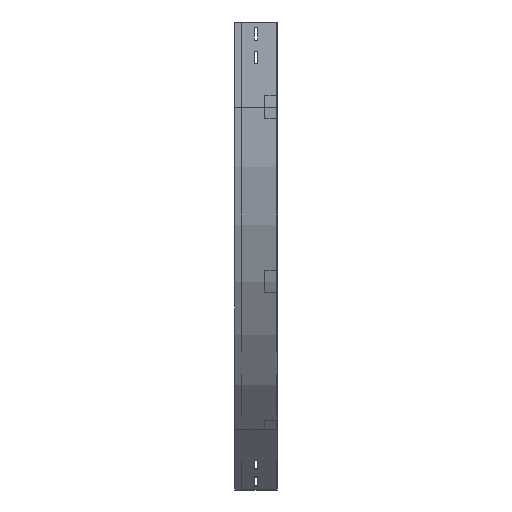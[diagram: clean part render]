
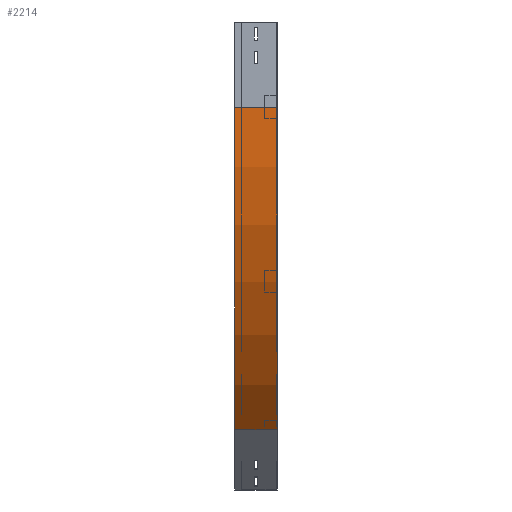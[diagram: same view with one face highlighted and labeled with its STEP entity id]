
A CAD part, left-side view. The second image highlights one B-rep face of the part: STEP entity #2214.
In plain terms, the highlighted cylindrical face has radius 800 mm (diameter 1600 mm), a partial arc.
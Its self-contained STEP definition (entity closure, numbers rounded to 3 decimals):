
#7 = VERTEX_POINT ( 'NONE', #1829 ) ;
#104 = DIRECTION ( 'NONE',  ( 0., -1., 0. ) ) ;
#155 = DIRECTION ( 'NONE',  ( 0., 0., -1. ) ) ;
#211 = CARTESIAN_POINT ( 'NONE',  ( 800., 75., -150. ) ) ;
#356 = CARTESIAN_POINT ( 'NONE',  ( 800., 0., -150. ) ) ;
#468 = ORIENTED_EDGE ( 'NONE', *, *, #1141, .T. ) ;
#485 = VERTEX_POINT ( 'NONE', #1782 ) ;
#693 = DIRECTION ( 'NONE',  ( -1., 0., 0. ) ) ;
#805 = AXIS2_PLACEMENT_3D ( 'NONE', #356, #1488, #693 ) ;
#858 = DIRECTION ( 'NONE',  ( 0., -1., 0. ) ) ;
#867 = VERTEX_POINT ( 'NONE', #3276 ) ;
#876 = EDGE_LOOP ( 'NONE', ( #2942, #2576, #1352, #468 ) ) ;
#1041 = DIRECTION ( 'NONE',  ( -1., 0., 0. ) ) ;
#1047 = AXIS2_PLACEMENT_3D ( 'NONE', #211, #1644, #1041 ) ;
#1141 = EDGE_CURVE ( 'NONE', #867, #7, #1702, .T. ) ;
#1352 = ORIENTED_EDGE ( 'NONE', *, *, #3806, .T. ) ;
#1380 = CYLINDRICAL_SURFACE ( 'NONE', #1603, 800. ) ;
#1476 = EDGE_CURVE ( 'NONE', #2558, #485, #1537, .T. ) ;
#1488 = DIRECTION ( 'NONE',  ( 0., -1., 0. ) ) ;
#1537 = LINE ( 'NONE', #1833, #3797 ) ;
#1603 = AXIS2_PLACEMENT_3D ( 'NONE', #1980, #2844, #155 ) ;
#1644 = DIRECTION ( 'NONE',  ( 0., -1., 0. ) ) ;
#1666 = CARTESIAN_POINT ( 'NONE',  ( 234.315, 0., -715.685 ) ) ;
#1702 = LINE ( 'NONE', #1666, #1778 ) ;
#1778 = VECTOR ( 'NONE', #858, 1000. ) ;
#1782 = CARTESIAN_POINT ( 'NONE',  ( 0., 0., -150. ) ) ;
#1829 = CARTESIAN_POINT ( 'NONE',  ( 234.315, 0., -715.685 ) ) ;
#1833 = CARTESIAN_POINT ( 'NONE',  ( 0., 0., -150. ) ) ;
#1980 = CARTESIAN_POINT ( 'NONE',  ( 800., 0., -150. ) ) ;
#2041 = EDGE_CURVE ( 'NONE', #485, #7, #3151, .T. ) ;
#2214 = ADVANCED_FACE ( 'NONE', ( #2870 ), #1380, .T. ) ;
#2558 = VERTEX_POINT ( 'NONE', #2757 ) ;
#2576 = ORIENTED_EDGE ( 'NONE', *, *, #1476, .F. ) ;
#2757 = CARTESIAN_POINT ( 'NONE',  ( 0., 75., -150. ) ) ;
#2844 = DIRECTION ( 'NONE',  ( 0., -1., 0. ) ) ;
#2870 = FACE_OUTER_BOUND ( 'NONE', #876, .T. ) ;
#2942 = ORIENTED_EDGE ( 'NONE', *, *, #2041, .F. ) ;
#3025 = CIRCLE ( 'NONE', #1047, 800. ) ;
#3151 = CIRCLE ( 'NONE', #805, 800. ) ;
#3276 = CARTESIAN_POINT ( 'NONE',  ( 234.315, 75., -715.685 ) ) ;
#3797 = VECTOR ( 'NONE', #104, 1000. ) ;
#3806 = EDGE_CURVE ( 'NONE', #2558, #867, #3025, .T. ) ;
